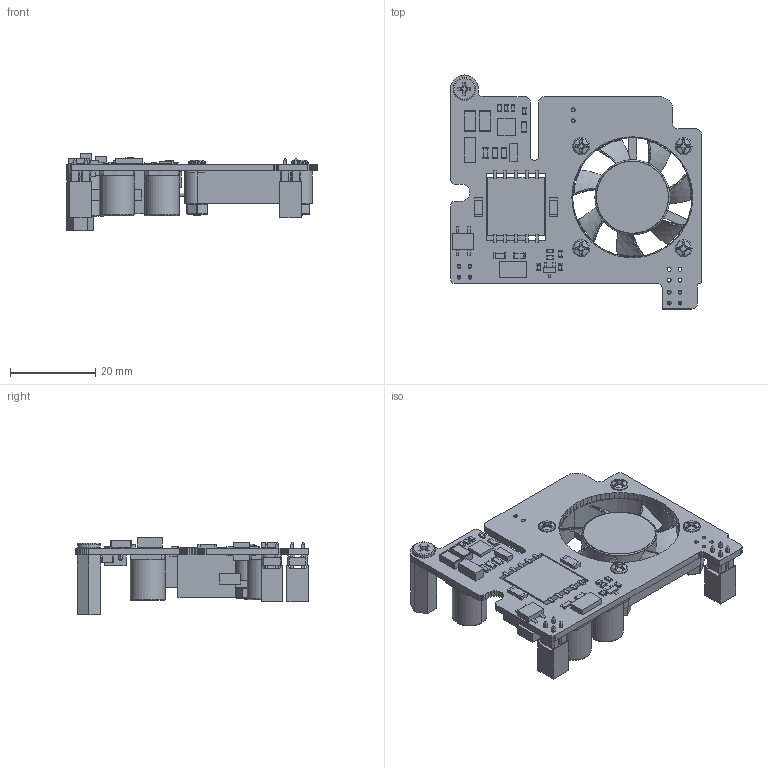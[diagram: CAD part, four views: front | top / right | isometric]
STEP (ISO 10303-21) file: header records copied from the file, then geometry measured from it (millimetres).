
FILE_DESCRIPTION((''),'2;1');
FILE_NAME('POE-HAT_D_ASM','2026-03-31T14:39:44',('xiaojisheng'),(''),'CREO PARAMETRIC BY PTC INC, 2021063','CREO PARAMETRIC BY PTC INC, 2021063','');
FILE_SCHEMA(('CONFIG_CONTROL_DESIGN','SHAPE_APPEARANCE_LAYERS_GROUPS'));
Products named in the file (123): BOARD; EXTRUDED-29418; 1052232016_ASM; EXTRUDED-30207; 1818983760_ASM; T1_ASM; EXTRUDED-42491; 1818984400_ASM; CYLINDER-42863; 960898960_ASM; CYLINDER-43014; 960899080_ASM; SPHERE; 960899200_ASM; H1_ASM; EXTRUDED-43263; 1118759760_ASM; EXTRUDED-43635; 1118759888_ASM; BD1_ASM; BD2_ASM; C1808; C1_ASM; EXTRUDED-46389; 1818985680_ASM; EXTRUDED-46761; 1818988880_ASM; C7_ASM; EXTRUDED-47169; 906466864_ASM; EXTRUDED-47546; 906467120_ASM; C9_ASM; EXTRUDED-47949; 1818983888_ASM; EXTRUDED-48326; 1818983504_ASM; C12_ASM; C13_ASM; C14_ASM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
Assembly tree (221 placements, depth 6):
  POE-HAT_D_ASM
    POE_HAT_D_PCBA_ASM
      PCB_ASM
        BOARD
        T1_ASM
          1052232016_ASM  x10
            EXTRUDED-29418
          1818983760_ASM
            EXTRUDED-30207
        H1_ASM
          1818984400_ASM
            EXTRUDED-42491
          960898960_ASM  x2
            CYLINDER-42863
          960899080_ASM  x2
            CYLINDER-43014
          960899200_ASM  x2
            SPHERE
        BD1_ASM
          1118759760_ASM
            EXTRUDED-43263
          1118759888_ASM  x4
            EXTRUDED-43635
        BD2_ASM
          1118759888_ASM  x4
            EXTRUDED-43635
          1118759760_ASM
            EXTRUDED-43263
        C1_ASM
          C1808
        C7_ASM
          1818985680_ASM
            EXTRUDED-46389
          1818988880_ASM  x2
            EXTRUDED-46761
        C9_ASM
          906466864_ASM  x2
            EXTRUDED-47169
          906467120_ASM
            EXTRUDED-47546
        C12_ASM
          1818983888_ASM  x2
            EXTRUDED-47949
          1818983504_ASM
            EXTRUDED-48326
        C13_ASM
          1818983888_ASM  x2
            EXTRUDED-47949
          1818983504_ASM
            EXTRUDED-48326
        C14_ASM
          906467120_ASM
            EXTRUDED-47546
          906466864_ASM  x2
            EXTRUDED-47169
        C20_ASM
          1818976720_ASM  x2
            EXTRUDED-48821
          1818986960_ASM
            EXTRUDED-49198
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Bounding box: 58.92 x 54.92 x 18.09 mm (x, y, z)
Volume: 12019.9 mm3; surface area: 15616.9 mm2
Topology: 142 solids, 143 shells, 2261 faces, 5527 edges, 3564 vertices
Faces by surface type: plane 1497, cylinder 485, bspline 139, cone 82, torus 30, sphere 28
Entity records: 60001 total; most frequent: CARTESIAN_POINT 20537, DIRECTION 5871, ORIENTED_EDGE 5756, PRESENTATION_STYLE_ASSIGNMENT 2972, STYLED_ITEM 2930, CURVE_STYLE 2878, EDGE_CURVE 2878, VECTOR 1993
